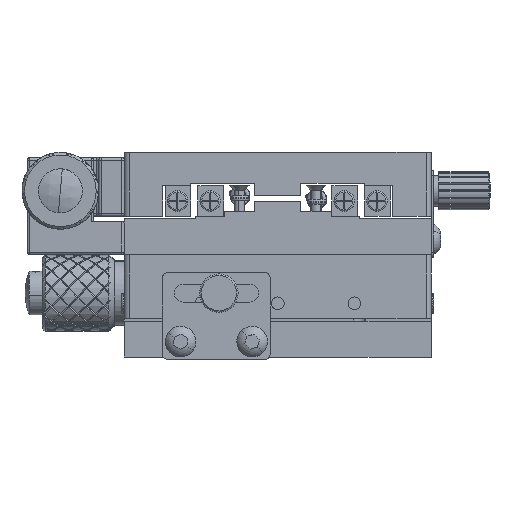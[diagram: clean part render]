
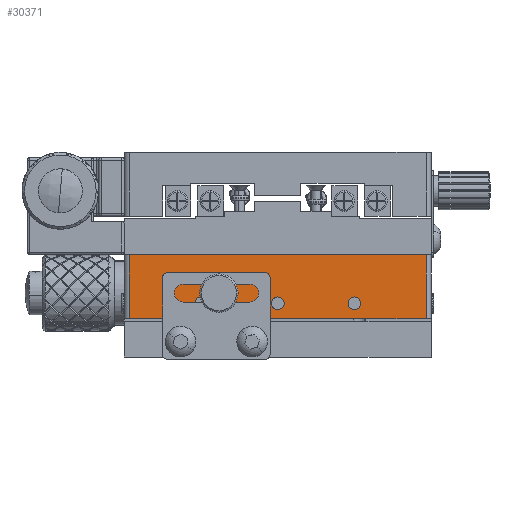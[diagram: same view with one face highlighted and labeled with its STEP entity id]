
A CAD part, left-side view. The second image highlights one B-rep face of the part: STEP entity #30371.
In plain terms, the highlighted planar face has unit normal (-1, 0, 0).
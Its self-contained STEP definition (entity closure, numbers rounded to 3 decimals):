
#10275 = FACE_BOUND ( 'NONE', #87177, .T. ) ;
#10279 = FACE_BOUND ( 'NONE', #87372, .T. ) ;
#10281 = FACE_BOUND ( 'NONE', #87071, .T. ) ;
#10283 = FACE_BOUND ( 'NONE', #87313, .T. ) ;
#10285 = FACE_OUTER_BOUND ( 'NONE', #87278, .T. ) ;
#11562 = VERTEX_POINT ( 'NONE', #19012 ) ;
#11563 = VERTEX_POINT ( 'NONE', #19013 ) ;
#11569 = VERTEX_POINT ( 'NONE', #19019 ) ;
#11570 = VERTEX_POINT ( 'NONE', #19020 ) ;
#11577 = VERTEX_POINT ( 'NONE', #19027 ) ;
#11578 = VERTEX_POINT ( 'NONE', #19028 ) ;
#11581 = VERTEX_POINT ( 'NONE', #19031 ) ;
#11582 = VERTEX_POINT ( 'NONE', #19032 ) ;
#19012 = CARTESIAN_POINT ( 'NONE',  ( 3840.903, 4072.841, 3.75 ) ) ;
#19013 = CARTESIAN_POINT ( 'NONE',  ( 3840.903, 4072.841, 6.25 ) ) ;
#19019 = CARTESIAN_POINT ( 'NONE',  ( 3840.903, 4046.341, 1.75 ) ) ;
#19020 = CARTESIAN_POINT ( 'NONE',  ( 3840.903, 4046.341, 4.25 ) ) ;
#19027 = CARTESIAN_POINT ( 'NONE',  ( 3840.903, 4061.341, 1.75 ) ) ;
#19028 = CARTESIAN_POINT ( 'NONE',  ( 3840.903, 4061.341, 4.25 ) ) ;
#19031 = CARTESIAN_POINT ( 'NONE',  ( 3840.903, 4076.341, 1.75 ) ) ;
#19032 = CARTESIAN_POINT ( 'NONE',  ( 3840.903, 4076.341, 4.25 ) ) ;
#23518 = AXIS2_PLACEMENT_3D ( 'NONE', #89725, #89726, #89727 ) ;
#23519 = AXIS2_PLACEMENT_3D ( 'NONE', #89728, #89729, #89730 ) ;
#23520 = AXIS2_PLACEMENT_3D ( 'NONE', #89731, #89732, #89733 ) ;
#23521 = AXIS2_PLACEMENT_3D ( 'NONE', #89736, #89737, #89738 ) ;
#25408 = ORIENTED_EDGE ( 'NONE', *, *, #34612, .F. ) ;
#25409 = ORIENTED_EDGE ( 'NONE', *, *, #41025, .F. ) ;
#25410 = ORIENTED_EDGE ( 'NONE', *, *, #34613, .F. ) ;
#25411 = ORIENTED_EDGE ( 'NONE', *, *, #41041, .F. ) ;
#25412 = ORIENTED_EDGE ( 'NONE', *, *, #34614, .F. ) ;
#25413 = ORIENTED_EDGE ( 'NONE', *, *, #41057, .F. ) ;
#25414 = ORIENTED_EDGE ( 'NONE', *, *, #34615, .F. ) ;
#25415 = ORIENTED_EDGE ( 'NONE', *, *, #41065, .F. ) ;
#25416 = ORIENTED_EDGE ( 'NONE', *, *, #34571, .T. ) ;
#25417 = ORIENTED_EDGE ( 'NONE', *, *, #34616, .F. ) ;
#25418 = ORIENTED_EDGE ( 'NONE', *, *, #34596, .F. ) ;
#25419 = ORIENTED_EDGE ( 'NONE', *, *, #34610, .T. ) ;
#29903 = AXIS2_PLACEMENT_3D ( 'NONE', #76547, #76544, #76548 ) ;
#30371 = ADVANCED_FACE ( 'NONE', ( #10275, #10279, #10283, #10281, #10285 ), #76545, .F. ) ;
#34571 = EDGE_CURVE ( 'NONE', #36746, #36745, #88964, .T. ) ;
#34596 = EDGE_CURVE ( 'NONE', #36750, #36754, #88974, .T. ) ;
#34610 = EDGE_CURVE ( 'NONE', #36750, #36746, #89012, .T. ) ;
#34612 = EDGE_CURVE ( 'NONE', #11563, #11562, #89017, .T. ) ;
#34613 = EDGE_CURVE ( 'NONE', #11570, #11569, #89014, .T. ) ;
#34614 = EDGE_CURVE ( 'NONE', #11578, #11577, #89019, .T. ) ;
#34615 = EDGE_CURVE ( 'NONE', #11582, #11581, #89020, .T. ) ;
#34616 = EDGE_CURVE ( 'NONE', #36754, #36745, #89021, .T. ) ;
#36745 = VERTEX_POINT ( 'NONE', #91475 ) ;
#36746 = VERTEX_POINT ( 'NONE', #91477 ) ;
#36750 = VERTEX_POINT ( 'NONE', #91485 ) ;
#36754 = VERTEX_POINT ( 'NONE', #91496 ) ;
#41025 = EDGE_CURVE ( 'NONE', #11562, #11563, #46391, .T. ) ;
#41041 = EDGE_CURVE ( 'NONE', #11569, #11570, #46403, .T. ) ;
#41057 = EDGE_CURVE ( 'NONE', #11577, #11578, #46416, .T. ) ;
#41065 = EDGE_CURVE ( 'NONE', #11581, #11582, #46423, .T. ) ;
#46391 = CIRCLE ( 'NONE', #79629, 1.25 ) ;
#46403 = CIRCLE ( 'NONE', #79636, 1.25 ) ;
#46416 = CIRCLE ( 'NONE', #79640, 1.25 ) ;
#46423 = CIRCLE ( 'NONE', #79644, 1.25 ) ;
#48716 = CARTESIAN_POINT ( 'NONE',  ( 3840.903, 4072.841, 5. ) ) ;
#48718 = DIRECTION ( 'NONE',  ( -1., 0., 0. ) ) ;
#48720 = DIRECTION ( 'NONE',  ( 0., 0., 1. ) ) ;
#48868 = CARTESIAN_POINT ( 'NONE',  ( 3840.903, 4046.341, 3. ) ) ;
#48870 = DIRECTION ( 'NONE',  ( -1., 0., 0. ) ) ;
#48872 = DIRECTION ( 'NONE',  ( 0., 0., 1. ) ) ;
#49095 = CARTESIAN_POINT ( 'NONE',  ( 3840.903, 4061.341, 3. ) ) ;
#49097 = DIRECTION ( 'NONE',  ( -1., 0., 0. ) ) ;
#49099 = DIRECTION ( 'NONE',  ( 0., 0., 1. ) ) ;
#49168 = CARTESIAN_POINT ( 'NONE',  ( 3840.903, 4076.341, 3. ) ) ;
#49170 = DIRECTION ( 'NONE',  ( -1., 0., 0. ) ) ;
#49172 = DIRECTION ( 'NONE',  ( 0., 0., 1. ) ) ;
#76544 = DIRECTION ( 'NONE',  ( 1., 0., 0. ) ) ;
#76545 = PLANE ( 'NONE',  #29903 ) ;
#76547 = CARTESIAN_POINT ( 'NONE',  ( 3840.903, 4090.341, 12.5 ) ) ;
#76548 = DIRECTION ( 'NONE',  ( 0., 1., 0. ) ) ;
#79629 = AXIS2_PLACEMENT_3D ( 'NONE', #48716, #48718, #48720 ) ;
#79636 = AXIS2_PLACEMENT_3D ( 'NONE', #48868, #48870, #48872 ) ;
#79640 = AXIS2_PLACEMENT_3D ( 'NONE', #49095, #49097, #49099 ) ;
#79644 = AXIS2_PLACEMENT_3D ( 'NONE', #49168, #49170, #49172 ) ;
#87071 = EDGE_LOOP ( 'NONE', ( #25414, #25415 ) ) ;
#87177 = EDGE_LOOP ( 'NONE', ( #25408, #25409 ) ) ;
#87278 = EDGE_LOOP ( 'NONE', ( #25416, #25417, #25418, #25419 ) ) ;
#87313 = EDGE_LOOP ( 'NONE', ( #25412, #25413 ) ) ;
#87372 = EDGE_LOOP ( 'NONE', ( #25410, #25411 ) ) ;
#88964 = LINE ( 'NONE', #89610, #88968 ) ;
#88968 = VECTOR ( 'NONE', #89609, 1000. ) ;
#88974 = LINE ( 'NONE', #89686, #88994 ) ;
#88994 = VECTOR ( 'NONE', #89681, 1000. ) ;
#89012 = LINE ( 'NONE', #89718, #89016 ) ;
#89014 = CIRCLE ( 'NONE', #23519, 1.25 ) ;
#89016 = VECTOR ( 'NONE', #89717, 1000. ) ;
#89017 = CIRCLE ( 'NONE', #23518, 1.25 ) ;
#89019 = CIRCLE ( 'NONE', #23520, 1.25 ) ;
#89020 = CIRCLE ( 'NONE', #23521, 1.25 ) ;
#89021 = LINE ( 'NONE', #89735, #89024 ) ;
#89024 = VECTOR ( 'NONE', #89724, 1000. ) ;
#89609 = DIRECTION ( 'NONE',  ( 0., -1., 0. ) ) ;
#89610 = CARTESIAN_POINT ( 'NONE',  ( 3840.903, 4090.341, 0. ) ) ;
#89681 = DIRECTION ( 'NONE',  ( 0., -1., 0. ) ) ;
#89686 = CARTESIAN_POINT ( 'NONE',  ( 3840.903, 4090.341, 12.5 ) ) ;
#89717 = DIRECTION ( 'NONE',  ( 0., 0., -1. ) ) ;
#89718 = CARTESIAN_POINT ( 'NONE',  ( 3840.903, 4090.341, 12.5 ) ) ;
#89724 = DIRECTION ( 'NONE',  ( 0., 0., -1. ) ) ;
#89725 = CARTESIAN_POINT ( 'NONE',  ( 3840.903, 4072.841, 5. ) ) ;
#89726 = DIRECTION ( 'NONE',  ( -1., 0., 0. ) ) ;
#89727 = DIRECTION ( 'NONE',  ( 0., 0., 1. ) ) ;
#89728 = CARTESIAN_POINT ( 'NONE',  ( 3840.903, 4046.341, 3. ) ) ;
#89729 = DIRECTION ( 'NONE',  ( -1., 0., 0. ) ) ;
#89730 = DIRECTION ( 'NONE',  ( 0., 0., 1. ) ) ;
#89731 = CARTESIAN_POINT ( 'NONE',  ( 3840.903, 4061.341, 3. ) ) ;
#89732 = DIRECTION ( 'NONE',  ( -1., 0., 0. ) ) ;
#89733 = DIRECTION ( 'NONE',  ( 0., 0., 1. ) ) ;
#89735 = CARTESIAN_POINT ( 'NONE',  ( 3840.903, 4032.341, 12.5 ) ) ;
#89736 = CARTESIAN_POINT ( 'NONE',  ( 3840.903, 4076.341, 3. ) ) ;
#89737 = DIRECTION ( 'NONE',  ( -1., 0., 0. ) ) ;
#89738 = DIRECTION ( 'NONE',  ( 0., 0., 1. ) ) ;
#91475 = CARTESIAN_POINT ( 'NONE',  ( 3840.903, 4032.341, 0. ) ) ;
#91477 = CARTESIAN_POINT ( 'NONE',  ( 3840.903, 4090.341, 0. ) ) ;
#91485 = CARTESIAN_POINT ( 'NONE',  ( 3840.903, 4090.341, 12.5 ) ) ;
#91496 = CARTESIAN_POINT ( 'NONE',  ( 3840.903, 4032.341, 12.5 ) ) ;
